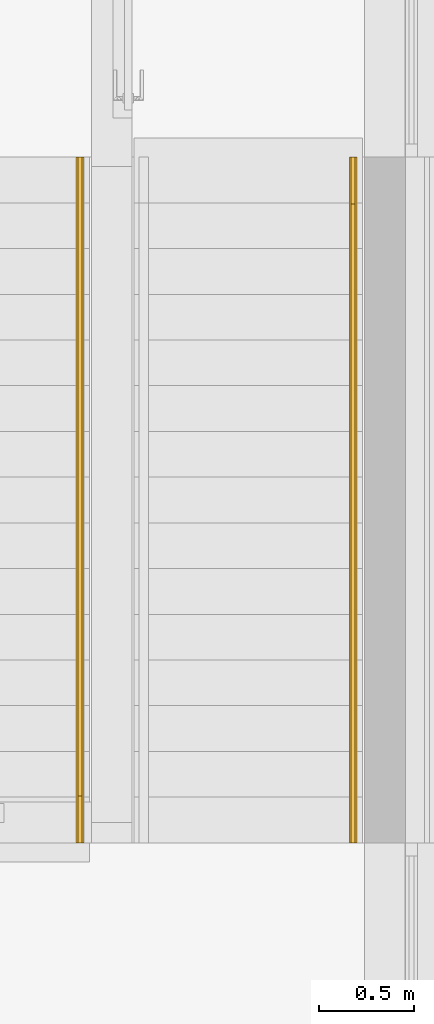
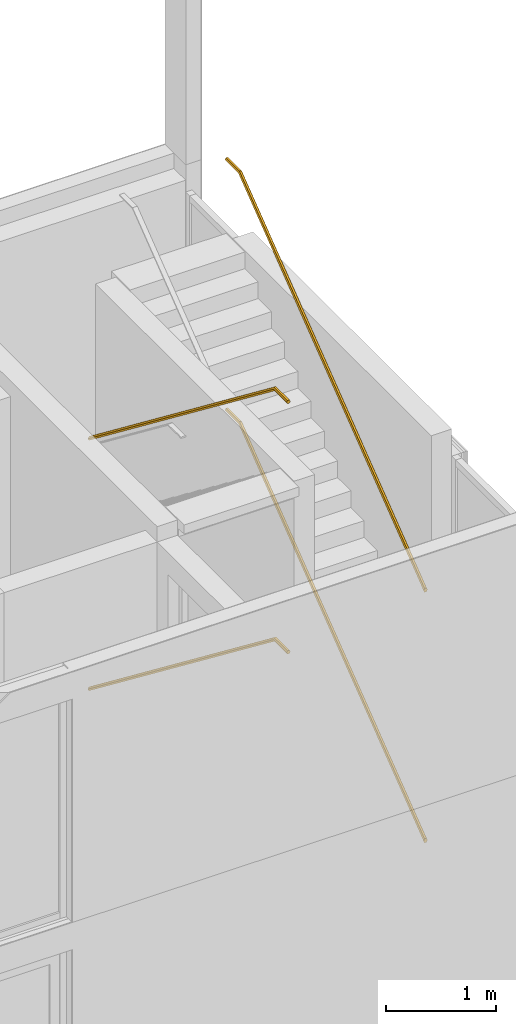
# One storey, part 94 of 117: 4 railings, 4 elements without a shape of their own.
"""IFC2X3 building model written with IfcOpenShell, lengths in millimetres."""

from ifc_helpers import new_model, entity, si_unit, converted_unit, derived_unit, money_unit, direction, frame, origin_with_axes, place, context, subcontext, project, spatial, faceted_brep, material, type_object, element, aggregate, save


model = new_model("IFC2X3")

# Units and contexts
model_context = context("Model", 3, precision=0.01, world=origin_with_axes(), true_north=direction((0.0, 1.0)))
body_context = subcontext(model_context, "Body", "Model", "MODEL_VIEW")
ifc_project = project(units=[si_unit("LENGTHUNIT", "METRE", prefix="MILLI"), si_unit("AREAUNIT", "SQUARE_METRE"), si_unit("VOLUMEUNIT", "CUBIC_METRE"), converted_unit("PLANEANGLEUNIT", "DEGREE", entity("IfcPlaneAngleMeasure", 0.0174532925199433), si_unit("PLANEANGLEUNIT", "RADIAN"), dimensions=[0, 0, 0, 0, 0, 0, 0]), money_unit("EUR"), converted_unit("TIMEUNIT", "Year", entity("IfcTimeMeasure", 31557600.0), si_unit("TIMEUNIT", "SECOND"), dimensions=[0, 0, 1, 0, 0, 0, 0]), si_unit("MASSUNIT", "GRAM", prefix="KILO"), si_unit("THERMODYNAMICTEMPERATUREUNIT", "DEGREE_CELSIUS"), si_unit("LUMINOUSINTENSITYUNIT", "LUMEN"), si_unit("ENERGYUNIT", "JOULE", prefix="MEGA"), derived_unit("THERMALCONDUCTANCEUNIT", [(si_unit("POWERUNIT", "WATT"), 1), (si_unit("LENGTHUNIT", "METRE"), -1), (si_unit("THERMODYNAMICTEMPERATUREUNIT", "KELVIN"), -1)]), derived_unit("SPECIFICHEATCAPACITYUNIT", [(si_unit("ENERGYUNIT", "JOULE"), 1), (si_unit("MASSUNIT", "GRAM", prefix="KILO"), -1), (si_unit("THERMODYNAMICTEMPERATUREUNIT", "KELVIN"), -1)]), derived_unit("MASSDENSITYUNIT", [(si_unit("MASSUNIT", "GRAM", prefix="KILO"), 1), (si_unit("VOLUMEUNIT", "CUBIC_METRE"), -1)])], contexts=[model_context])

# Site, building, storey
site_placement = place(None, origin_with_axes())
site = spatial("IfcSite", under=ifc_project, at=site_placement, Name="Site", CompositionType="ELEMENT")
building_placement = place(site_placement, origin_with_axes())
building = spatial("IfcBuilding", under=site, at=building_placement, Name="Naam gebouw", CompositionType="ELEMENT")
storey_placement = place(building_placement, frame((0.0, 0.0, 4150.0), z_axis=(0.0, 0.0, 1.0), x_axis=(1.0, 0.0, 0.0)))
storey = spatial("IfcBuildingStorey", under=building, at=storey_placement, Name="1e verdieping N", CompositionType="ELEMENT", Elevation=4150.0)

# Stair, railing
stair_1_placement = place(storey_placement, frame((0.0, 0.0, -4150.0), z_axis=(0.0, 0.0, 1.0), x_axis=(1.0, 0.0, 0.0)))
stair_1 = element("IfcStair", 1, at=stair_1_placement, inside=storey, Name="Precast Stair:Stair", ObjectType="Precast Stair:24_trap - prefab", ShapeType="NOTDEFINED")
ifc_material = material(Name="baluster_staal")
railing_type = type_object("IfcRailingType", Name="Railing:44_3B_leuning - staal Ø40", PredefinedType="NOTDEFINED")
railing_1_placement = place(stair_1_placement, frame((34894.59527228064, 34145.91242623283, 1437.836143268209), z_axis=(0.0, 0.0, 1.0), x_axis=(0.0, 1.0, 0.0)))
railing_1 = element("IfcRailing", 2, at=railing_1_placement, type_object=railing_type, material=ifc_material, Name="Railing:44_3B_leuning - staal Ø40", PredefinedType="NOTDEFINED", context=body_context, shape_type="Brep", body=[
    faceted_brep([(3600.0, 11.59527223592, 48.68489197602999), (3600.0, 9.095272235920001, 43.22129983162), (3600.0, 6.595272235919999, 37.75770768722), (3600.0, 3.55654329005, 31.11675744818), (3600.0, 1.59527223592, 26.83052339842), (3600.0, 4.095272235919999, 21.36693125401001), (3600.0, 6.595272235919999, 15.90333910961), (3600.0, 9.095272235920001, 10.43974696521), (3600.0, 11.59527223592, 4.976154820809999), (3600.0, 16.59527223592, 4.976154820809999), (3600.0, 21.59527223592, 4.976154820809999), (3600.0, 26.59527223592, 4.976154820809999), (3600.0, 31.59527223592, 4.976154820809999), (3600.0, 34.09527223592, 10.43974696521), (3600.0, 36.59527223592, 15.90333910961), (3600.0, 39.09527223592, 21.36693125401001), (3600.0, 41.59527223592, 26.83052339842), (3600.0, 39.63400118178, 31.11675744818), (3600.0, 37.67273012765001, 35.40299149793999), (3600.0, 34.63400118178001, 42.04394173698), (3600.0, 31.59527223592, 48.68489197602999), (3600.0, 26.59527223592, 48.68489197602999), (3600.0, 21.59527223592, 48.68489197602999), (3600.0, 16.59527223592, 48.68489197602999), (245.89238187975, 11.59527223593, 2629.48436480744), (244.4192864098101, 9.095272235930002, 2625.15423778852), (242.94619093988, 6.59527223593, 2620.82411076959), (241.47309546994, 4.09527223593, 2616.49398375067), (240.0, 1.59527223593, 2612.16385673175), (238.84667540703, 3.5525869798, 2608.77368814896), (238.72210158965, 3.76400202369, 2608.40750655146), (237.69335081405, 5.509901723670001, 2605.38351956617), (237.4442031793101, 5.932731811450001, 2604.65115637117), (235.9004844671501, 8.552586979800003, 2600.11343411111), (235.77591064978, 8.764002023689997, 2599.74725251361), (234.10761812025, 11.59527223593, 2594.84334865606), (234.10761812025, 26.59527223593, 2594.84334865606), (234.10761812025, 31.59527223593, 2594.84334865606), (234.10761812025, 16.59527223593, 2594.84334865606), (234.10761812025, 21.59527223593, 2594.84334865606), (235.58071359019, 34.09527223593, 2599.17347567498), (237.05380906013, 36.59527223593, 2603.5036026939), (238.72210161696, 39.42654249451, 2608.40750663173), (238.84667540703, 39.63795749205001, 2608.77368814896), (240.0, 41.59527223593, 2612.16385673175), (241.47309546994, 39.09527223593, 2616.49398375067), (242.94619093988, 36.59527223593, 2620.82411076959), (244.4192864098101, 34.09527223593, 2625.15423778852), (245.89238187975, 31.59527223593, 2629.48436480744), (245.89238187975, 26.59527223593, 2629.48436480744), (245.89238187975, 21.59527223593, 2629.48436480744), (245.89238187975, 16.59527223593, 2629.48436480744), (0.0, 9.095272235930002, 2625.15423778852), (0.0, 6.59527223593, 2620.82411076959), (0.0, 3.704284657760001, 2615.81677340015), (0.0, 1.59527223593, 2612.16385673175), (0.0, 11.59527223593, 2629.48436480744), (0.0, 6.59527223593, 2603.5036026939), (0.0, 9.095272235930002, 2599.17347567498), (0.0, 11.59527223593, 2594.84334865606), (0.0, 4.09527223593, 2607.83372971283), (0.0, 16.59527223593, 2594.84334865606), (0.0, 21.59527223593, 2594.84334865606), (0.0, 26.59527223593, 2594.84334865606), (0.0, 31.59527223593, 2594.84334865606), (0.0, 34.09527223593, 2599.17347567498), (0.0, 36.59527223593, 2603.5036026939), (0.0, 39.09527223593, 2607.83372971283), (0.0, 41.59527223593, 2612.16385673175), (0.0, 39.48625981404, 2615.81677340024), (0.0, 37.37724739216, 2619.46969006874), (0.0, 34.48625981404, 2624.47702743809), (0.0, 31.59527223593, 2629.48436480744), (0.0, 26.59527223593, 2629.48436480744), (0.0, 21.59527223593, 2629.48436480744), (0.0, 16.59527223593, 2629.48436480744)], [[[0, 1, 2, 3, 4, 5, 6, 7, 8, 9, 10, 11, 12, 13, 14, 15, 16, 17, 18, 19, 20, 21, 22, 23]], [[2, 1, 0, 24, 25, 26, 27, 28, 4, 3]], [[7, 6, 5, 4, 28, 29, 30, 31, 32, 33, 34, 35, 8]], [[36, 37, 12, 11, 10, 9, 8, 35, 38, 39]], [[15, 14, 13, 12, 37, 40, 41, 42, 43, 44, 16]], [[20, 19, 18, 17, 16, 44, 45, 46, 47, 48]], [[22, 21, 20, 48, 49, 50, 51, 24, 0, 23]], [[52, 53, 54, 55, 28, 27, 26, 25, 24, 56]], [[57, 58, 59, 35, 34, 33, 32, 31, 30, 29, 28, 55, 60]], [[39, 38, 35, 59, 61, 62, 63, 64, 37, 36]], [[65, 66, 67, 68, 44, 43, 42, 41, 40, 37, 64]], [[46, 45, 44, 68, 69, 70, 71, 72, 48, 47]], [[50, 49, 48, 72, 73, 74, 75, 56, 24, 51]], [[55, 54, 53, 52, 56, 75, 74, 73, 72, 71, 70, 69, 68, 67, 66, 65, 64, 63, 62, 61, 59, 58, 57, 60]]]),
])
aggregate(stair_1, [railing_1])

stair_2_placement = place(storey_placement, frame((0.0, 0.0, -4150.0), z_axis=(0.0, 0.0, 1.0), x_axis=(1.0, 0.0, 0.0)))
stair_2 = element("IfcStair", 3, at=stair_2_placement, inside=storey, Name="Precast Stair:Stair", ObjectType="Precast Stair:24_trap - prefab", ShapeType="NOTDEFINED")
railing_2_placement = place(stair_2_placement, frame((36328.59527225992, 34145.91242629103, 4207.836143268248), z_axis=(0.0, 0.0, 1.0), x_axis=(0.0, 1.0, 0.0)))
railing_2 = element("IfcRailing", 4, at=railing_2_placement, type_object=railing_type, material=ifc_material, Name="Railing:44_3B_leuning - staal Ø40", PredefinedType="NOTDEFINED", context=body_context, shape_type="Brep", body=[
    faceted_brep([(0.0, 41.59527223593, 26.83052339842), (0.0, 39.09527223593, 21.36693125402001), (0.0, 36.59527223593, 15.90333910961), (0.0, 34.09527223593, 10.43974696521), (0.0, 31.59527223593, 4.976154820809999), (0.0, 26.59527223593, 4.976154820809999), (0.0, 21.59527223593, 4.976154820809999), (0.0, 16.59527223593, 4.976154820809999), (0.0, 11.59527223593, 4.976154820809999), (0.0, 9.095272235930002, 10.43974696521), (0.0, 6.59527223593, 15.90333910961), (0.0, 4.09527223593, 21.36693125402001), (0.0, 1.59527223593, 26.83052339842), (0.0, 3.556543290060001, 31.11675744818), (0.0, 5.517814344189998, 35.40299149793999), (0.0, 8.556543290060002, 42.04394173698), (0.0, 11.59527223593, 48.68489197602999), (0.0, 16.59527223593, 48.68489197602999), (0.0, 21.59527223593, 48.68489197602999), (0.0, 26.59527223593, 48.68489197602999), (0.0, 31.59527223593, 48.68489197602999), (0.0, 34.09527223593, 43.22129983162), (0.0, 36.59527223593, 37.75770768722), (0.0, 39.6340011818, 31.11675744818), (3360.0, 41.59527223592, 2612.16385673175), (3361.15332459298, 39.63795749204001, 2608.77368814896), (3361.27789838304, 39.4265424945, 2608.40750663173), (3362.30664918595, 37.68064274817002, 2605.38351956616), (3362.55579676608, 37.25781275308, 2604.6511565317), (3364.09951553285, 34.63795749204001, 2600.11343411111), (3364.22408932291, 34.4265424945, 2599.74725259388), (3365.89238187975, 31.59527223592, 2594.84334865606), (3365.89238187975, 16.59527223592, 2594.84334865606), (3365.89238187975, 11.59527223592, 2594.84334865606), (3365.89238187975, 26.59527223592, 2594.84334865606), (3365.89238187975, 21.59527223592, 2594.84334865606), (3364.41928640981, 9.095272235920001, 2599.17347567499), (3362.94619093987, 6.595272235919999, 2603.50360269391), (3361.27789838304, 3.76400197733, 2608.40750663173), (3361.15332459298, 3.55258697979, 2608.77368814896), (3360.0, 1.59527223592, 2612.16385673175), (3358.52690453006, 4.095272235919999, 2616.49398375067), (3357.05380906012, 6.595272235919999, 2620.8241107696), (3355.58071359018, 9.095272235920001, 2625.15423778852), (3354.10761812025, 11.59527223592, 2629.48436480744), (3354.10761812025, 16.59527223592, 2629.48436480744), (3354.10761812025, 21.59527223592, 2629.48436480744), (3354.10761812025, 26.59527223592, 2629.48436480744), (3354.10761812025, 31.59527223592, 2629.48436480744), (3355.58071359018, 34.09527223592, 2625.15423778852), (3357.05380906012, 36.59527223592, 2620.8241107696), (3358.52690453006, 39.09527223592, 2616.49398375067), (3600.0, 36.59527223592, 2603.50360269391), (3600.0, 34.09527223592, 2599.17347567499), (3600.0, 31.59527223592, 2594.84334865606), (3600.0, 41.59527223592, 2612.16385673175), (3600.0, 39.09527223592, 2607.83372971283), (3600.0, 26.59527223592, 2594.84334865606), (3600.0, 21.59527223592, 2594.84334865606), (3600.0, 16.59527223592, 2594.84334865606), (3600.0, 11.59527223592, 2594.84334865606), (3600.0, 1.59527223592, 2612.16385673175), (3600.0, 9.095272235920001, 2599.17347567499), (3600.0, 6.595272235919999, 2603.50360269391), (3600.0, 4.095272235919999, 2607.83372971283), (3600.0, 3.704284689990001, 2615.81677345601), (3600.0, 5.81329714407, 2619.46969018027), (3600.0, 8.704284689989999, 2624.47702749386), (3600.0, 11.59527223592, 2629.48436480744), (3600.0, 26.59527223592, 2629.48436480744), (3600.0, 31.59527223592, 2629.48436480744), (3600.0, 16.59527223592, 2629.48436480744), (3600.0, 21.59527223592, 2629.48436480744), (3600.0, 39.48625981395, 2615.81677340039), (3600.0, 34.09527223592, 2625.15423778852), (3600.0, 36.59527223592, 2620.8241107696)], [[[0, 1, 2, 3, 4, 5, 6, 7, 8, 9, 10, 11, 12, 13, 14, 15, 16, 17, 18, 19, 20, 21, 22, 23]], [[3, 2, 1, 0, 24, 25, 26, 27, 28, 29, 30, 31, 4]], [[32, 33, 8, 7, 6, 5, 4, 31, 34, 35]], [[11, 10, 9, 8, 33, 36, 37, 38, 39, 40, 12]], [[16, 15, 14, 13, 12, 40, 41, 42, 43, 44]], [[18, 17, 16, 44, 45, 46, 47, 48, 20, 19]], [[22, 21, 20, 48, 49, 50, 51, 24, 0, 23]], [[52, 53, 54, 31, 30, 29, 28, 27, 26, 25, 24, 55, 56]], [[35, 34, 31, 54, 57, 58, 59, 60, 33, 32]], [[61, 40, 39, 38, 37, 36, 33, 60, 62, 63, 64]], [[42, 41, 40, 61, 65, 66, 67, 68, 44, 43]], [[69, 70, 48, 47, 46, 45, 44, 68, 71, 72]], [[73, 55, 24, 51, 50, 49, 48, 70, 74, 75]], [[54, 53, 52, 56, 55, 73, 75, 74, 70, 69, 72, 71, 68, 67, 66, 65, 61, 64, 63, 62, 60, 59, 58, 57]]]),
])
aggregate(stair_2, [railing_2])

stair_3_placement = place(storey_placement, frame((0.0, 0.0, -4150.0), z_axis=(0.0, 0.0, 1.0), x_axis=(1.0, 0.0, 0.0)))
stair_3 = element("IfcStair", 5, at=stair_3_placement, inside=storey, Name="Precast Stair:Stair", ObjectType="Precast Stair:24_trap - prefab", ShapeType="NOTDEFINED")
railing_3_placement = place(stair_3_placement, frame((34894.59527228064, 34145.91242623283, 4207.836143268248), z_axis=(0.0, 0.0, 1.0), x_axis=(0.0, 1.0, 0.0)))
railing_3 = element("IfcRailing", 6, at=railing_3_placement, type_object=railing_type, material=ifc_material, Name="Railing:44_3B_leuning - staal Ø40", PredefinedType="NOTDEFINED", context=body_context, shape_type="Brep", body=[
    faceted_brep([(3600.0, 1.59527223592, 26.83052339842), (3600.0, 4.095272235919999, 21.36693125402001), (3600.0, 6.595272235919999, 15.90333910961), (3600.0, 9.095272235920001, 10.43974696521), (3600.0, 11.59527223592, 4.976154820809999), (3600.0, 16.59527223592, 4.976154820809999), (3600.0, 21.59527223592, 4.976154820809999), (3600.0, 26.59527223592, 4.976154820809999), (3600.0, 31.59527223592, 4.976154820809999), (3600.0, 34.09527223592, 10.43974696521), (3600.0, 36.59527223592, 15.90333910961), (3600.0, 39.09527223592, 21.36693125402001), (3600.0, 41.59527223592, 26.83052339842), (3600.0, 39.63400118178, 31.11675744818), (3600.0, 37.67273012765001, 35.40299149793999), (3600.0, 34.63400118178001, 42.04394173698), (3600.0, 31.59527223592, 48.68489197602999), (3600.0, 26.59527223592, 48.68489197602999), (3600.0, 21.59527223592, 48.68489197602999), (3600.0, 16.59527223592, 48.68489197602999), (3600.0, 11.59527223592, 48.68489197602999), (3600.0, 9.095272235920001, 43.22129983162), (3600.0, 6.595272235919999, 37.75770768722), (3600.0, 3.55654329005, 31.11675744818), (240.0, 1.59527223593, 2612.16385673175), (238.84667540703, 3.5525869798, 2608.77368814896), (238.72210158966, 3.76400202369, 2608.40750655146), (237.69335081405, 5.509901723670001, 2605.38351956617), (237.4442031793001, 5.932731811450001, 2604.65115637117), (235.9004844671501, 8.552586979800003, 2600.11343411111), (235.77591064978, 8.764002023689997, 2599.74725251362), (234.10761812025, 11.59527223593, 2594.84334865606), (234.10761812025, 26.59527223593, 2594.84334865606), (234.10761812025, 31.59527223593, 2594.84334865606), (234.10761812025, 16.59527223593, 2594.84334865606), (234.10761812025, 21.59527223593, 2594.84334865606), (235.58071359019, 34.09527223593, 2599.17347567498), (237.05380906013, 36.59527223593, 2603.5036026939), (238.72210161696, 39.42654249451, 2608.40750663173), (238.84667540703, 39.63795749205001, 2608.77368814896), (240.0, 41.59527223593, 2612.16385673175), (241.47309546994, 39.09527223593, 2616.49398375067), (242.94619093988, 36.59527223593, 2620.82411076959), (244.4192864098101, 34.09527223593, 2625.15423778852), (245.89238187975, 31.59527223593, 2629.48436480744), (245.89238187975, 26.59527223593, 2629.48436480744), (245.89238187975, 21.59527223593, 2629.48436480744), (245.89238187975, 16.59527223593, 2629.48436480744), (245.89238187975, 11.59527223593, 2629.48436480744), (244.4192864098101, 9.095272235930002, 2625.15423778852), (242.94619093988, 6.59527223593, 2620.82411076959), (241.47309546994, 4.09527223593, 2616.49398375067), (0.0, 6.59527223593, 2603.50360269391), (0.0, 9.095272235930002, 2599.17347567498), (0.0, 11.59527223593, 2594.84334865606), (0.0, 1.59527223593, 2612.16385673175), (0.0, 4.09527223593, 2607.83372971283), (0.0, 16.59527223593, 2594.84334865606), (0.0, 21.59527223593, 2594.84334865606), (0.0, 26.59527223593, 2594.84334865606), (0.0, 31.59527223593, 2594.84334865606), (0.0, 34.09527223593, 2599.17347567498), (0.0, 36.59527223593, 2603.50360269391), (0.0, 39.09527223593, 2607.83372971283), (0.0, 41.59527223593, 2612.16385673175), (0.0, 39.48625981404, 2615.81677340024), (0.0, 37.37724739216, 2619.46969006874), (0.0, 34.48625981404, 2624.47702743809), (0.0, 31.59527223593, 2629.48436480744), (0.0, 26.59527223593, 2629.48436480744), (0.0, 21.59527223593, 2629.48436480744), (0.0, 16.59527223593, 2629.48436480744), (0.0, 11.59527223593, 2629.48436480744), (0.0, 9.095272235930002, 2625.15423778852), (0.0, 6.59527223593, 2620.82411076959), (0.0, 3.70428465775, 2615.81677340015)], [[[0, 1, 2, 3, 4, 5, 6, 7, 8, 9, 10, 11, 12, 13, 14, 15, 16, 17, 18, 19, 20, 21, 22, 23]], [[3, 2, 1, 0, 24, 25, 26, 27, 28, 29, 30, 31, 4]], [[32, 33, 8, 7, 6, 5, 4, 31, 34, 35]], [[11, 10, 9, 8, 33, 36, 37, 38, 39, 40, 12]], [[16, 15, 14, 13, 12, 40, 41, 42, 43, 44]], [[18, 17, 16, 44, 45, 46, 47, 48, 20, 19]], [[22, 21, 20, 48, 49, 50, 51, 24, 0, 23]], [[52, 53, 54, 31, 30, 29, 28, 27, 26, 25, 24, 55, 56]], [[35, 34, 31, 54, 57, 58, 59, 60, 33, 32]], [[61, 62, 63, 64, 40, 39, 38, 37, 36, 33, 60]], [[42, 41, 40, 64, 65, 66, 67, 68, 44, 43]], [[46, 45, 44, 68, 69, 70, 71, 72, 48, 47]], [[73, 74, 75, 55, 24, 51, 50, 49, 48, 72]], [[54, 53, 52, 56, 55, 75, 74, 73, 72, 71, 70, 69, 68, 67, 66, 65, 64, 63, 62, 61, 60, 59, 58, 57]]]),
])
aggregate(stair_3, [railing_3])

stair_4_placement = place(storey_placement, frame((0.0, 0.0, -4150.0), z_axis=(0.0, 0.0, 1.0), x_axis=(1.0, 0.0, 0.0)))
stair_4 = element("IfcStair", 7, at=stair_4_placement, inside=storey, Name="Precast Stair:Stair", ObjectType="Precast Stair:24_trap - prefab", ShapeType="NOTDEFINED")
railing_4_placement = place(stair_4_placement, frame((36328.59527225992, 34145.91242629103, 1437.836143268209), z_axis=(0.0, 0.0, 1.0), x_axis=(0.0, 1.0, 0.0)))
railing_4 = element("IfcRailing", 8, at=railing_4_placement, type_object=railing_type, material=ifc_material, Name="Railing:44_3B_leuning - staal Ø40", PredefinedType="NOTDEFINED", context=body_context, shape_type="Brep", body=[
    faceted_brep([(0.0, 31.59527223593, 48.68489197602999), (0.0, 34.09527223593, 43.22129983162), (0.0, 36.59527223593, 37.75770768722), (0.0, 39.6340011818, 31.11675744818), (0.0, 41.59527223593, 26.83052339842), (0.0, 39.09527223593, 21.36693125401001), (0.0, 36.59527223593, 15.90333910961), (0.0, 34.09527223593, 10.43974696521), (0.0, 31.59527223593, 4.976154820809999), (0.0, 26.59527223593, 4.976154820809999), (0.0, 21.59527223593, 4.976154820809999), (0.0, 16.59527223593, 4.976154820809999), (0.0, 11.59527223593, 4.976154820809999), (0.0, 9.095272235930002, 10.43974696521), (0.0, 6.59527223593, 15.90333910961), (0.0, 4.09527223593, 21.36693125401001), (0.0, 1.59527223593, 26.83052339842), (0.0, 3.556543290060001, 31.11675744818), (0.0, 5.517814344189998, 35.40299149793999), (0.0, 8.556543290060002, 42.04394173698), (0.0, 11.59527223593, 48.68489197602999), (0.0, 16.59527223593, 48.68489197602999), (0.0, 21.59527223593, 48.68489197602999), (0.0, 26.59527223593, 48.68489197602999), (3354.10761812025, 31.59527223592, 2629.48436480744), (3355.58071359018, 34.09527223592, 2625.15423778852), (3357.05380906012, 36.59527223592, 2620.8241107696), (3358.52690453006, 39.09527223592, 2616.49398375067), (3360.0, 41.59527223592, 2612.16385673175), (3361.15332459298, 39.63795749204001, 2608.77368814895), (3361.27789838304, 39.4265424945, 2608.40750663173), (3362.30664918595, 37.68064274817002, 2605.38351956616), (3362.55579676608, 37.25781275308, 2604.6511565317), (3364.09951553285, 34.63795749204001, 2600.11343411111), (3364.22408932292, 34.4265424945, 2599.74725259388), (3365.89238187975, 31.59527223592, 2594.84334865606), (3365.89238187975, 16.59527223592, 2594.84334865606), (3365.89238187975, 11.59527223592, 2594.84334865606), (3365.89238187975, 26.59527223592, 2594.84334865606), (3365.89238187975, 21.59527223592, 2594.84334865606), (3364.41928640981, 9.095272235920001, 2599.17347567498), (3362.94619093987, 6.595272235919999, 2603.50360269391), (3361.27789838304, 3.76400197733, 2608.40750663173), (3361.15332459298, 3.55258697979, 2608.77368814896), (3360.0, 1.59527223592, 2612.16385673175), (3358.52690453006, 4.095272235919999, 2616.49398375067), (3357.05380906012, 6.595272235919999, 2620.8241107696), (3355.58071359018, 9.095272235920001, 2625.15423778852), (3354.10761812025, 11.59527223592, 2629.48436480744), (3354.10761812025, 16.59527223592, 2629.48436480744), (3354.10761812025, 21.59527223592, 2629.48436480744), (3354.10761812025, 26.59527223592, 2629.48436480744), (3600.0, 39.48625981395, 2615.81677340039), (3600.0, 41.59527223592, 2612.16385673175), (3600.0, 31.59527223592, 2629.48436480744), (3600.0, 34.09527223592, 2625.15423778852), (3600.0, 36.59527223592, 2620.8241107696), (3600.0, 36.59527223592, 2603.50360269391), (3600.0, 34.09527223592, 2599.17347567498), (3600.0, 31.59527223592, 2594.84334865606), (3600.0, 39.09527223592, 2607.83372971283), (3600.0, 26.59527223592, 2594.84334865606), (3600.0, 21.59527223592, 2594.84334865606), (3600.0, 16.59527223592, 2594.84334865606), (3600.0, 11.59527223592, 2594.84334865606), (3600.0, 1.59527223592, 2612.16385673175), (3600.0, 9.095272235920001, 2599.17347567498), (3600.0, 6.595272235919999, 2603.50360269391), (3600.0, 4.095272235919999, 2607.83372971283), (3600.0, 3.704284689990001, 2615.81677345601), (3600.0, 5.81329714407, 2619.46969018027), (3600.0, 8.704284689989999, 2624.47702749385), (3600.0, 11.59527223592, 2629.48436480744), (3600.0, 26.59527223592, 2629.48436480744), (3600.0, 16.59527223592, 2629.48436480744), (3600.0, 21.59527223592, 2629.48436480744)], [[[0, 1, 2, 3, 4, 5, 6, 7, 8, 9, 10, 11, 12, 13, 14, 15, 16, 17, 18, 19, 20, 21, 22, 23]], [[2, 1, 0, 24, 25, 26, 27, 28, 4, 3]], [[7, 6, 5, 4, 28, 29, 30, 31, 32, 33, 34, 35, 8]], [[36, 37, 12, 11, 10, 9, 8, 35, 38, 39]], [[15, 14, 13, 12, 37, 40, 41, 42, 43, 44, 16]], [[20, 19, 18, 17, 16, 44, 45, 46, 47, 48]], [[22, 21, 20, 48, 49, 50, 51, 24, 0, 23]], [[52, 53, 28, 27, 26, 25, 24, 54, 55, 56]], [[57, 58, 59, 35, 34, 33, 32, 31, 30, 29, 28, 53, 60]], [[39, 38, 35, 59, 61, 62, 63, 64, 37, 36]], [[65, 44, 43, 42, 41, 40, 37, 64, 66, 67, 68]], [[46, 45, 44, 65, 69, 70, 71, 72, 48, 47]], [[73, 54, 24, 51, 50, 49, 48, 72, 74, 75]], [[53, 52, 56, 55, 54, 73, 75, 74, 72, 71, 70, 69, 65, 68, 67, 66, 64, 63, 62, 61, 59, 58, 57, 60]]]),
])
aggregate(stair_4, [railing_4])

save(model, "model.ifc")
